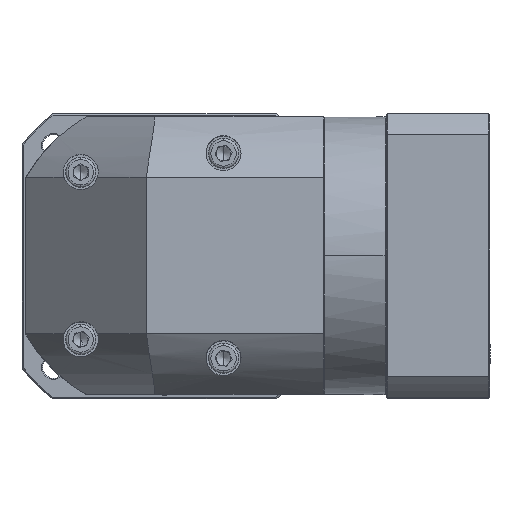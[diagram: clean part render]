
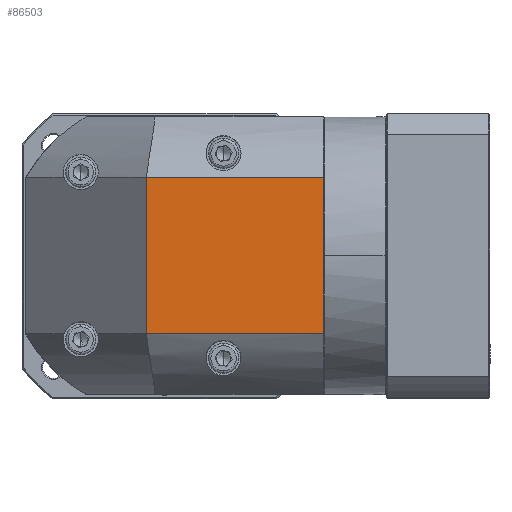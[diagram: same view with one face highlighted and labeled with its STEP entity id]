
A CAD part, top view. The second image highlights one B-rep face of the part: STEP entity #86503.
In plain terms, the highlighted planar face has unit normal (0, 0, 1).
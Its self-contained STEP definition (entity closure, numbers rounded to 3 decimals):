
#1974 = ORIENTED_EDGE ( 'NONE', *, *, #40327, .F. ) ;
#6236 = VECTOR ( 'NONE', #7440, 1000. ) ;
#7440 = DIRECTION ( 'NONE',  ( 0., 1., 0. ) ) ;
#13445 = LINE ( 'NONE', #56899, #115234 ) ;
#22107 = LINE ( 'NONE', #36433, #68901 ) ;
#27256 = VECTOR ( 'NONE', #90035, 1000. ) ;
#28683 = EDGE_CURVE ( 'NONE', #86488, #105912, #13445, .T. ) ;
#28989 = LINE ( 'NONE', #56711, #27256 ) ;
#36279 = PLANE ( 'NONE',  #91170 ) ;
#36433 = CARTESIAN_POINT ( 'NONE',  ( -18.927, 121.297, 97.205 ) ) ;
#40327 = EDGE_CURVE ( 'NONE', #51426, #91414, #22107, .T. ) ;
#50919 = CARTESIAN_POINT ( 'NONE',  ( 31.073, 121.297, 97.205 ) ) ;
#51426 = VERTEX_POINT ( 'NONE', #50919 ) ;
#53934 = ORIENTED_EDGE ( 'NONE', *, *, #28683, .F. ) ;
#56711 = CARTESIAN_POINT ( 'NONE',  ( 104.473, 146.397, 97.205 ) ) ;
#56899 = CARTESIAN_POINT ( 'NONE',  ( -18.927, 56.497, 97.205 ) ) ;
#57380 = EDGE_LOOP ( 'NONE', ( #1974, #80267, #53934, #88445 ) ) ;
#58804 = EDGE_CURVE ( 'NONE', #105912, #51426, #91963, .T. ) ;
#61603 = CARTESIAN_POINT ( 'NONE',  ( 31.073, 56.497, 97.205 ) ) ;
#62296 = EDGE_CURVE ( 'NONE', #91414, #86488, #28989, .T. ) ;
#67509 = DIRECTION ( 'NONE',  ( 0., -1., 0. ) ) ;
#68901 = VECTOR ( 'NONE', #108706, 1000. ) ;
#72490 = FACE_OUTER_BOUND ( 'NONE', #57380, .T. ) ;
#76342 = DIRECTION ( 'NONE',  ( -1., 0., 0. ) ) ;
#79149 = CARTESIAN_POINT ( 'NONE',  ( 104.473, 121.297, 97.205 ) ) ;
#80267 = ORIENTED_EDGE ( 'NONE', *, *, #58804, .F. ) ;
#86488 = VERTEX_POINT ( 'NONE', #89490 ) ;
#86503 = ADVANCED_FACE ( 'NONE', ( #72490 ), #36279, .F. ) ;
#88445 = ORIENTED_EDGE ( 'NONE', *, *, #62296, .F. ) ;
#89490 = CARTESIAN_POINT ( 'NONE',  ( 104.473, 56.497, 97.205 ) ) ;
#90035 = DIRECTION ( 'NONE',  ( 0., -1., 0. ) ) ;
#91170 = AXIS2_PLACEMENT_3D ( 'NONE', #98167, #108549, #67509 ) ;
#91414 = VERTEX_POINT ( 'NONE', #79149 ) ;
#91963 = LINE ( 'NONE', #119146, #6236 ) ;
#98167 = CARTESIAN_POINT ( 'NONE',  ( 38.573, 88.897, 97.205 ) ) ;
#105912 = VERTEX_POINT ( 'NONE', #61603 ) ;
#108549 = DIRECTION ( 'NONE',  ( 0., 0., -1. ) ) ;
#108706 = DIRECTION ( 'NONE',  ( 1., 0., 0. ) ) ;
#115234 = VECTOR ( 'NONE', #76342, 1000. ) ;
#119146 = CARTESIAN_POINT ( 'NONE',  ( 31.073, 146.397, 97.205 ) ) ;
